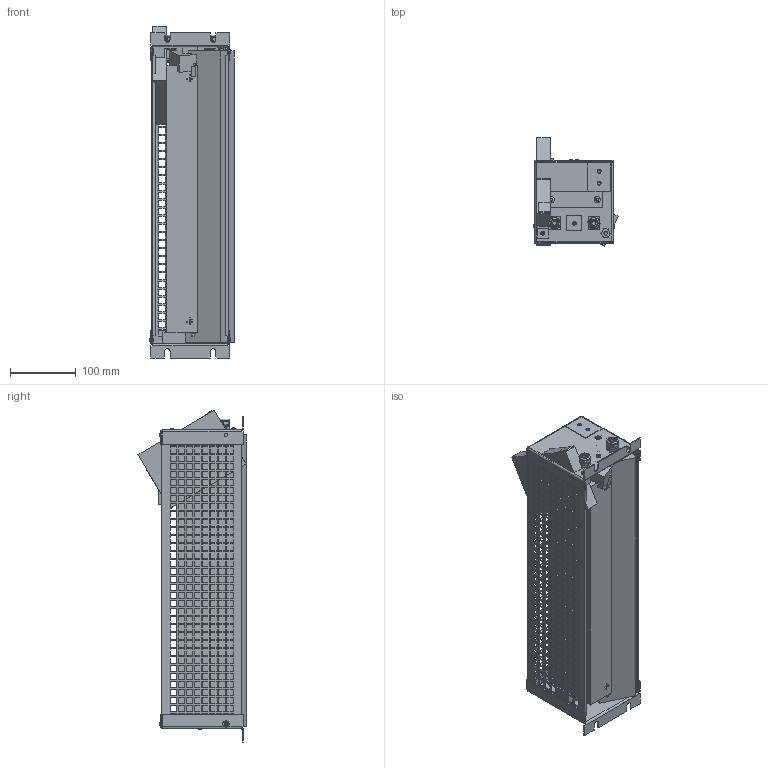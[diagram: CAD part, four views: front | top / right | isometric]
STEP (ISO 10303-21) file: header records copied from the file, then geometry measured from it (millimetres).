
FILE_DESCRIPTION(/* description */ (''),/* implementation_level */ '2;1');
FILE_NAME(/* name */ 'C:\_Vault\Dati\CATALOGO\RM\RM catalogo\RM catalogo\RM 01M-Esterno.stp',/* time_stamp */ '2021-11-30T09:23:18+01:00',/* author */ ('claudio'),/* organization */ (''),/* preprocessor_version */ 'ST-DEVELOPER v18.1',/* originating_system */ 'Autodesk Inventor 2022',/* authorisation */ '');
FILE_SCHEMA (('AUTOMOTIVE_DESIGN { 1 0 10303 214 3 1 1 }'));
Products named in the file (2): Copia di RM 01M; RM 01M-Esterno
Assembly tree (1 placements, depth 2):
  Copia di RM 01M
    RM 01M-Esterno
Bounding box: 128.65 x 164.6 x 505.45 mm (x, y, z)
Volume: 3790608 mm3; surface area: 481453.6 mm2
Topology: 1 solids, 15 shells, 3909 faces, 11636 edges, 7661 vertices
Faces by surface type: plane 3666, cylinder 152, cone 75, torus 16
Full cylindrical faces by diameter (mm): 3 x4, 3.2 x1, 3.242 x1, 4 x2, 4.8 x6, 4.92 x1, 5 x7, 6.3 x4, 9.6 x2, 9.8 x2, 11 x4, 11.6 x4, 13.86 x2, 15.2 x3, 15.5 x2, 17 x2
Entity records: 135663 total; most frequent: CARTESIAN_POINT 23541, ORIENTED_EDGE 23272, DIRECTION 19804, EDGE_CURVE 11636, LINE 10992, VECTOR 10992, VERTEX_POINT 7660, EDGE_LOOP 5464
